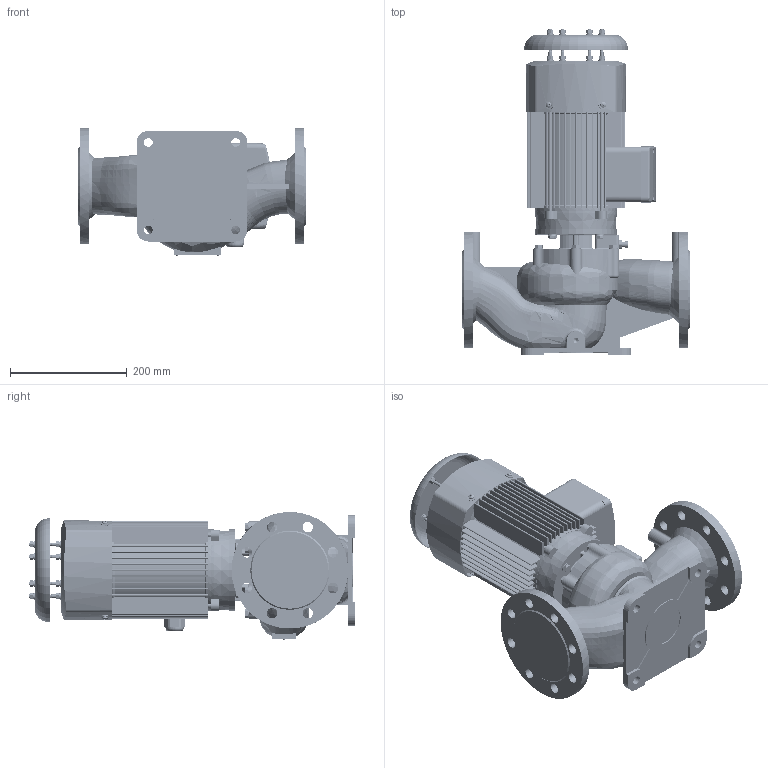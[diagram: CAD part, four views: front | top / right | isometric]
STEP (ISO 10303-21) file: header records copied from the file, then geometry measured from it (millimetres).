
FILE_DESCRIPTION (( 'STEP AP214' ), '1' );
FILE_NAME ('LLT80-5-1.5.STEP', '2020-08-28T01:06:43', ( 'cnp' ), ( '' ), 'SwSTEP 2.0', 'SolidWorks 2018', '' );
FILE_SCHEMA (( 'AUTOMOTIVE_DESIGN' ));
Length unit declared in the file: millimetre
Products named in the file (29): LLT80掙芛; GB╱T 5783-2016[六角头螺栓 全螺纹M8×30]; LLT80; 平垫圈8; YE3-90-IMV18 萇儂 滅迾欶; LLT80-5-1.5; GB╱T 5783-2016[六角头螺栓 全螺纹M8×30]_M8×30
Assembly tree (23 placements, depth 2):
  GB╱T 5783-2016[六角头螺栓 全螺纹M8×30]
  GB╱T 5783-2016[六角头螺栓 全螺纹M8×30]
  GB╱T 5783-2016[六角头螺栓 全螺纹M8×30]
  GB╱T 5783-2016[六角头螺栓 全螺纹M8×30]
  GB╱T 5783-2016[六角头螺栓 全螺纹M8×30]
Bounding box: 390 x 560.05 x 219.9 mm (x, y, z)
Volume: 6537575.7 mm3; surface area: 1496781.1 mm2
Topology: 31 solids, 128 shells, 6344 faces, 16794 edges, 11002 vertices
Faces by surface type: plane 3387, bspline 1133, cylinder 1045, cone 661, torus 100, sphere 18
Full cylindrical faces by diameter (mm): 1.1 x1, 1.3 x1, 2 x7, 3 x7, 3.3 x7, 3.4 x4, 4 x16, 4.2 x4, 4.25 x4, 4.5 x8, 5 x28, 5.196 x4, 5.3 x4, 5.5 x2, 5.8 x2, 6 x199, 6.4 x16, 6.5 x4, 6.6 x4, 6.75 x4, 6.8 x10, 7 x6, 8 x16, 8.4 x16, 8.5 x2, 9 x12, 9.5 x4, 10 x14, 11 x1, 11.8 x2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
Entity records: 325156 total; most frequent: CARTESIAN_POINT 115157, ORIENTED_EDGE 31146, DIRECTION 24474, EDGE_CURVE 15603, VERTEX_POINT 10639, VECTOR 8676, LINE 8676, AXIS2_PLACEMENT_3D 7899
